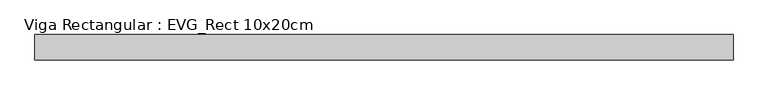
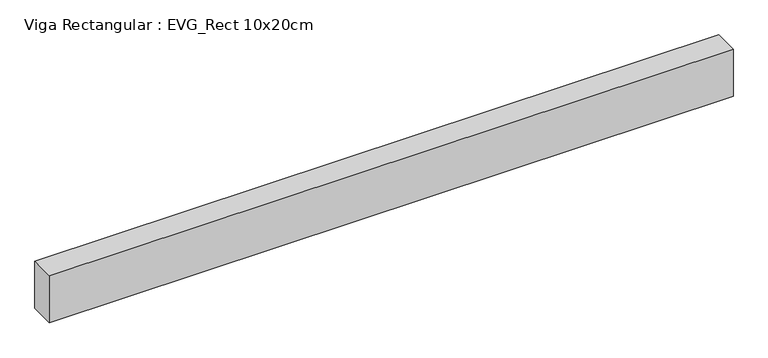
"""IFC4 building model written with IfcOpenShell, lengths in millimetres: beam geometry, Viga Rectangular : EVG_Rect 10x20cm."""

from ifc_helpers import new_model, si_unit, frame, origin, place, context, project, spatial, polyline, outline, extrude, source, transform, mapped, element, save


def viga_rectangular_evg_rect_10x20cm_86ed0425(model_context):
    return source(origin(), model_context, "Body", "SweptSolid", [
        extrude(outline(polyline([(1375.0, 50.0), (1375.0, -50.0), (-1375.0, -50.0), (-1375.0, 50.0), (1375.0, 50.0)])), frame((0.0, 0.0, -200.0), z_axis=(0.0, 0.0, 1.0), x_axis=(1.0, 0.0, 0.0)), (0.0, 0.0, 1.0), 200.0),
    ])


if __name__ == "__main__":
    model = new_model("IFC4")
    model_context = context("Model", 3, world=origin())
    ifc_project = project(units=[si_unit("LENGTHUNIT", "METRE", prefix="MILLI")], contexts=[model_context])
    site = spatial("IfcSite", under=ifc_project)
    building = spatial("IfcBuilding", under=site)
    placement = place(None, origin())
    viga_rectangular_evg_rect_10x20cm_shape = viga_rectangular_evg_rect_10x20cm_86ed0425(model_context)
    element("IfcBeam", 1, ObjectType="Viga Rectangular : EVG_Rect 10x20cm", at=placement, inside=building, context=model_context, shape_type="MappedRepresentation", body=[
        mapped(viga_rectangular_evg_rect_10x20cm_shape, transform((0.0, 0.0, 0.0), x_axis=(1.0, 0.0, 0.0), y_axis=(0.0, 1.0, 0.0), z_axis=(0.0, 0.0, 1.0))),
    ])
    save(model, "model.ifc")
